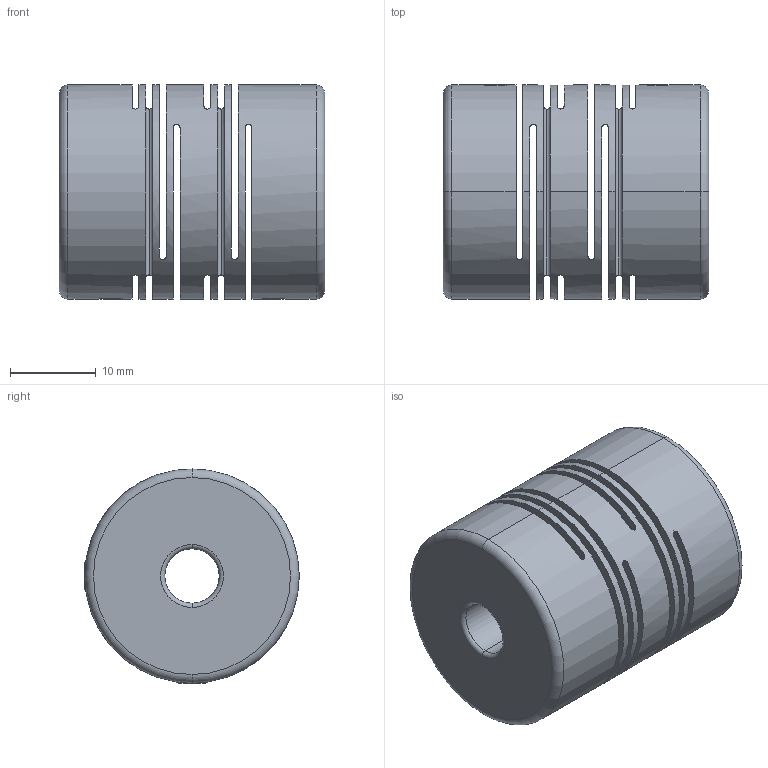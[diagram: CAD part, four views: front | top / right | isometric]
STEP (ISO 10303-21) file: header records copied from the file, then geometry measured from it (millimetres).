
FILE_DESCRIPTION (( 'STEP AP203' ), '1' );
FILE_NAME ('FSMML25-6.35x10.STEP', '2013-12-23T08:21:31', ( '123' ), ( '' ), 'SwSTEP 2.0', 'SolidWorks 2013', '' );
FILE_SCHEMA (( 'CONFIG_CONTROL_DESIGN' ));
Length unit declared in the file: millimetre
Products named in the file (1): FSMML25-6.35x10
Bounding box: 31 x 25 x 25 mm (x, y, z)
Surface area: 9102.1 mm2 (no closed solid volume)
Topology: 0 solids, 8 shells, 105 faces, 320 edges, 218 vertices
Faces by surface type: plane 47, cylinder 30, cone 12, bspline 8, torus 8
Entity records: 4406 total; most frequent: CARTESIAN_POINT 1498, DIRECTION 574, ORIENTED_EDGE 562, EDGE_CURVE 320, AXIS2_PLACEMENT_3D 220, VERTEX_POINT 218, VECTOR 134, LINE 134
